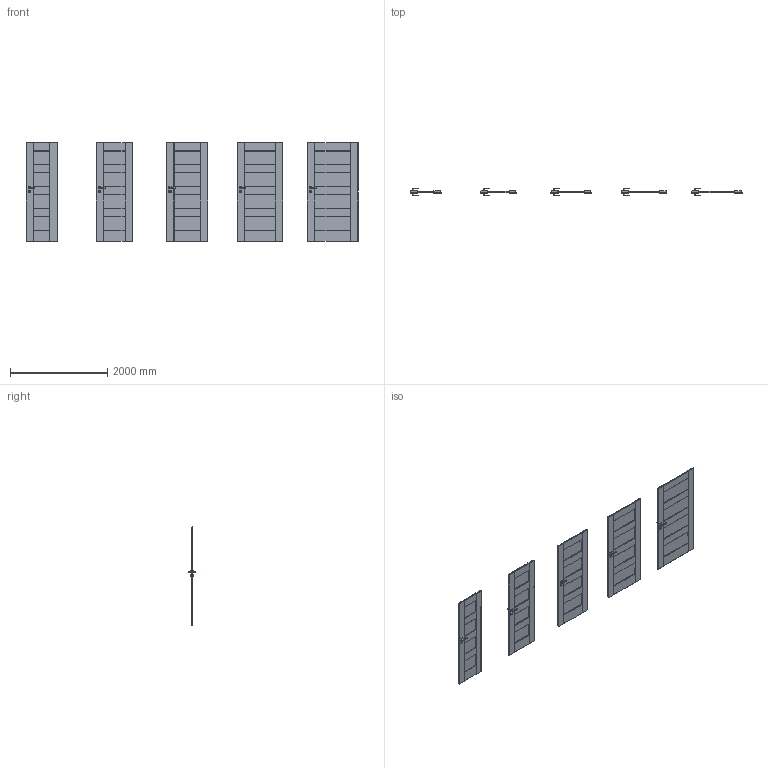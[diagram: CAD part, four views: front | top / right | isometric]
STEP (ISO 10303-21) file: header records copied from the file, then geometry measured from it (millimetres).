
FILE_DESCRIPTION(/* description */ (''),/* implementation_level */ '2;1');
FILE_NAME(/* name */ '049811_A_2-Skrzydło Verte Premium model A polska norma _PN__ przylgowe..stp',/* time_stamp */ '2024-08-22T10:00:53+02:00',/* author */ (''),/* organization */ (''),/* preprocessor_version */ 'ST-DEVELOPER v16',/* originating_system */ 'SIEMENS PLM Software NX 11.0',/* authorisation */ '');
FILE_SCHEMA (('AUTOMOTIVE_DESIGN { 1 0 10303 214 3 1 1 1 }'));
Products named in the file (1): bkni14D42E8Dly8l
Bounding box: 6844 x 153.13 x 2030.02 mm (x, y, z)
Volume: 219850322.7 mm3; surface area: 19455252.1 mm2
Topology: 25 solids, 25 shells, 1885 faces, 4847 edges, 2917 vertices
Faces by surface type: plane 890, cylinder 685, bspline 170, sphere 140
Entity records: 61774 total; most frequent: CARTESIAN_POINT 17113, ORIENTED_EDGE 9414, DIRECTION 9108, EDGE_CURVE 4707, AXIS2_PLACEMENT_3D 3084, LINE 2940, VECTOR 2940, VERTEX_POINT 2917
